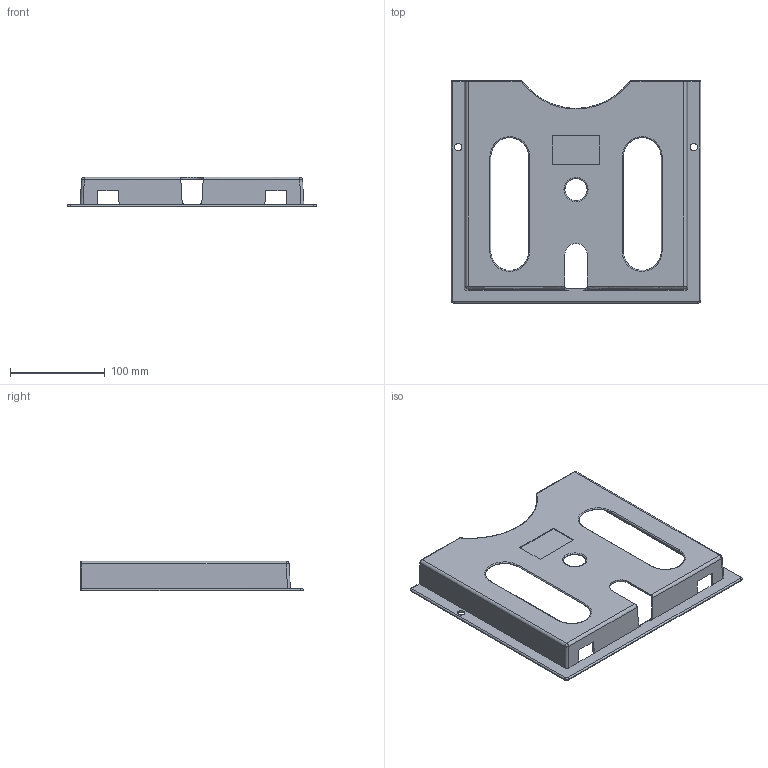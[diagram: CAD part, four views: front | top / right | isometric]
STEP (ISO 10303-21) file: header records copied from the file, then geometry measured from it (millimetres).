
FILE_DESCRIPTION(/* description */ (''),/* implementation_level */ '2;1');
FILE_NAME(/* name */ 'TPD-A4',/* time_stamp */ '2016-04-14T16:31:40+02:00',/* author */ (''),/* organization */ (''),/* preprocessor_version */ 'ST-DEVELOPER v10',/* originating_system */ '',/* authorisation */ '');
FILE_SCHEMA (('CONFIG_CONTROL_DESIGN'));
Length unit declared in the file: millimetre
Products named in the file (1): 1
Bounding box: 264 x 235 x 31.3 mm (x, y, z)
Volume: 125783 mm3; surface area: 131822.8 mm2
Topology: 1 solids, 1 shells, 101 faces, 286 edges, 180 vertices
Faces by surface type: bspline 63, plane 38
Entity records: 3392 total; most frequent: CARTESIAN_POINT 1646, ORIENTED_EDGE 568, EDGE_CURVE 284, B_SPLINE_CURVE_WITH_KNOTS 182, VERTEX_POINT 180, EDGE_LOOP 112, ADVANCED_FACE 101, FACE_OUTER_BOUND 101
